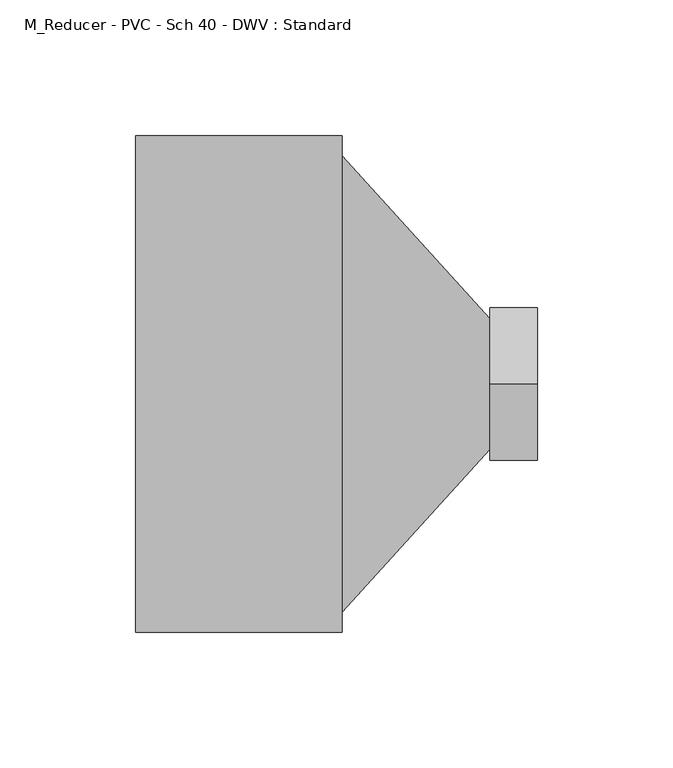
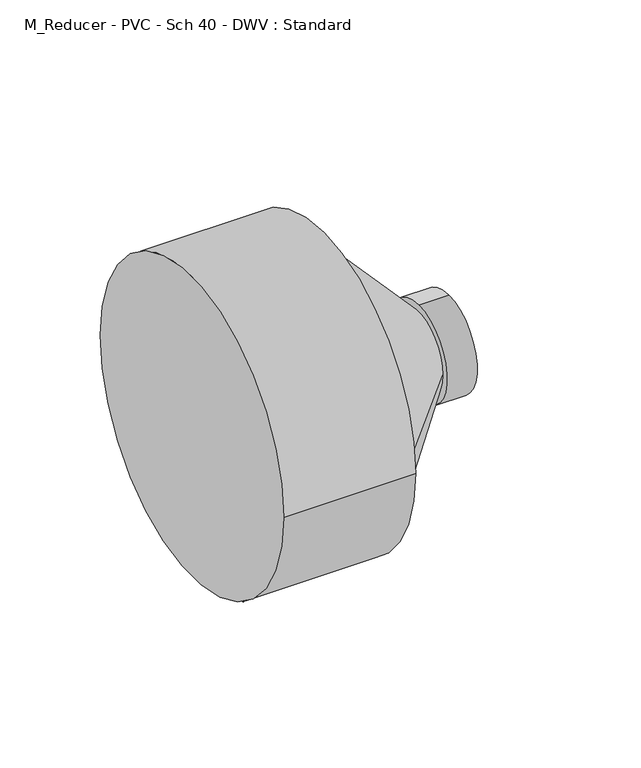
"""IFC4 building model written with IfcOpenShell, lengths in millimetres: pipe fitting geometry, M_Reducer - PVC - Sch 40 - DWV : Standard."""

from ifc_helpers import new_model, si_unit, frame, origin, place, context, project, spatial, polyline, circle_curve, source, transform, mapped, element, save
from ifc_brep_helpers import plane_surface, cylinder_surface, revolved_surface, advanced_brep


def m_reducer_pvc_sch_40_dwv_standard_9cc5e542(model_context):
    return source(origin(), model_context, "Body", "AdvancedBrep", [
        advanced_brep(
        [(0.0, -91.5543, 0.0), (0.0, 91.5543, 0.0), (76.2, -91.5543, 0.0), (76.2, 91.5543, 0.0), (76.2, 84.1375, 0.0), (76.2, -84.1375, 0.0), (130.7462938, 24.13, 0.0), (130.7462938, -24.13, 0.0), (130.7462938, 0.0, 28.2829), (130.7462938, 0.0, -28.2829), (148.1960938, 0.0, 28.2829), (148.1960938, 0.0, -28.2829)],
        [
            (0, 1, circle_curve(frame((0.0, 0.0, 0.0), z_axis=(-1.0, 0.0, 0.0), x_axis=(0.0, 1.0, 0.0)), 91.5543)),
            (1, 0, circle_curve(frame((0.0, 0.0, 0.0), z_axis=(-1.0, 0.0, 0.0), x_axis=(0.0, 1.0, 0.0)), 91.5543)),
            (2, 3, circle_curve(frame((76.2, 0.0, 0.0), z_axis=(1.0, 0.0, 0.0), x_axis=(0.0, 1.0, 0.0)), 91.5543)),
            (3, 2, circle_curve(frame((76.2, 0.0, 0.0), z_axis=(1.0, 0.0, 0.0), x_axis=(0.0, 1.0, 0.0)), 91.5543)),
            (4, 5, circle_curve(frame((76.2, 0.0, 0.0), z_axis=(-1.0, 0.0, 0.0), x_axis=(0.0, -1.0, 0.0)), 84.1375)),
            (5, 4, circle_curve(frame((76.2, 0.0, 0.0), z_axis=(-1.0, 0.0, 0.0), x_axis=(0.0, 1.0, 0.0)), 84.1375)),
            (0, 2),
            (3, 1),
            (4, 6),
            (6, 7, circle_curve(frame((130.7462938, 0.0, 0.0), z_axis=(-1.0, 0.0, 0.0), x_axis=(0.0, -1.0, 0.0)), 24.13)),
            (7, 5),
            (7, 6, circle_curve(frame((130.7462938, 0.0, 0.0), z_axis=(-1.0, 0.0, 0.0), x_axis=(0.0, 1.0, 0.0)), 24.13)),
            (8, 9, circle_curve(frame((130.7462938, 0.0, 0.0), z_axis=(-1.0, 0.0, 0.0), x_axis=(0.0, 0.0, -1.0)), 28.2829)),
            (9, 8, circle_curve(frame((130.7462938, 0.0, 0.0), z_axis=(-1.0, 0.0, 0.0), x_axis=(0.0, 0.0, -1.0)), 28.2829)),
            (10, 11, circle_curve(frame((148.1960938, 0.0, 0.0), z_axis=(1.0, 0.0, 0.0), x_axis=(0.0, 0.0, -1.0)), 28.2829)),
            (11, 10, circle_curve(frame((148.1960938, 0.0, 0.0), z_axis=(1.0, 0.0, 0.0), x_axis=(0.0, 0.0, -1.0)), 28.2829)),
            (8, 10),
            (11, 9),
        ],
        [
            plane_surface(frame((0.0, 0.0, 0.0), z_axis=(-1.0, 0.0, 0.0), x_axis=(0.0, 0.0, 1.0))),
            plane_surface(frame((76.2, 0.0, 0.0), z_axis=(1.0, 0.0, 0.0), x_axis=(0.0, 0.0, 1.0))),
            cylinder_surface(frame((0.0, 0.0, 0.0), z_axis=(-1.0, 0.0, 0.0), x_axis=(0.0, 1.0, 0.0)), 91.5543),
            revolved_surface(polyline([(130.7462938, 24.129999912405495, 0.0), (76.2, 84.1375, 0.0)]), (152.6802531, 0.0, 0.0), (-1.0, 0.0, 0.0)),
            plane_surface(frame((130.7462938, 0.0, 0.0), z_axis=(-1.0, 0.0, 0.0), x_axis=(0.0, 1.0, 0.0))),
            plane_surface(frame((148.1960938, 0.0, 0.0), z_axis=(1.0, 0.0, 0.0), x_axis=(0.0, 1.0, 0.0))),
            cylinder_surface(frame((130.7462938, 0.0, 0.0), z_axis=(-1.0, 0.0, 0.0), x_axis=(0.0, 0.0, -1.0)), 28.2829),
        ],
        [
            (0, [[1, 2]]),
            (1, [[3, 4], [5, 6]]),
            (2, [[-1, 7, -4, 8]]),
            (2, [[-2, -8, -3, -7]]),
            (3, [[9, 10, 11, -5]]),
            (3, [[-9, -6, -11, 12]]),
            (4, [[13, 14], [-10, -12]]),
            (5, [[15, 16]]),
            (6, [[-13, 17, -16, 18]]),
            (6, [[-14, -18, -15, -17]]),
        ],
    ),
    ])


if __name__ == "__main__":
    model = new_model("IFC4")
    model_context = context("Model", 3, world=origin())
    ifc_project = project(units=[si_unit("LENGTHUNIT", "METRE", prefix="MILLI")], contexts=[model_context])
    site = spatial("IfcSite", under=ifc_project)
    building = spatial("IfcBuilding", under=site)
    placement = place(None, origin())
    m_reducer_pvc_sch_40_dwv_standard_shape = m_reducer_pvc_sch_40_dwv_standard_9cc5e542(model_context)
    element("IfcPipeFitting", 1, ObjectType="M_Reducer - PVC - Sch 40 - DWV : Standard", at=placement, inside=building, context=model_context, shape_type="MappedRepresentation", body=[
        mapped(m_reducer_pvc_sch_40_dwv_standard_shape, transform((0.0, 0.0, 0.0), x_axis=(1.0, 0.0, 0.0), y_axis=(0.0, 1.0, 0.0), z_axis=(0.0, 0.0, 1.0))),
    ])
    save(model, "model.ifc")
